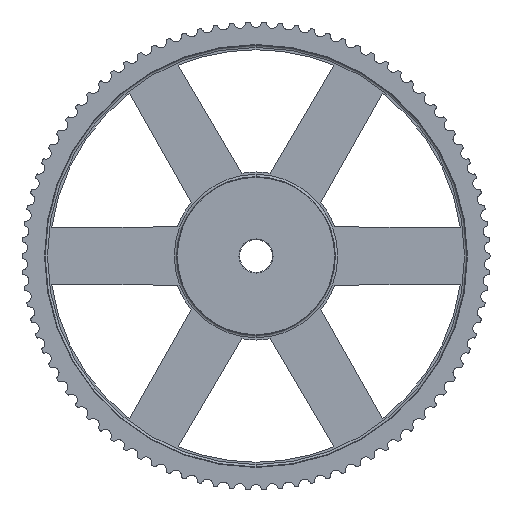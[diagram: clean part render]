
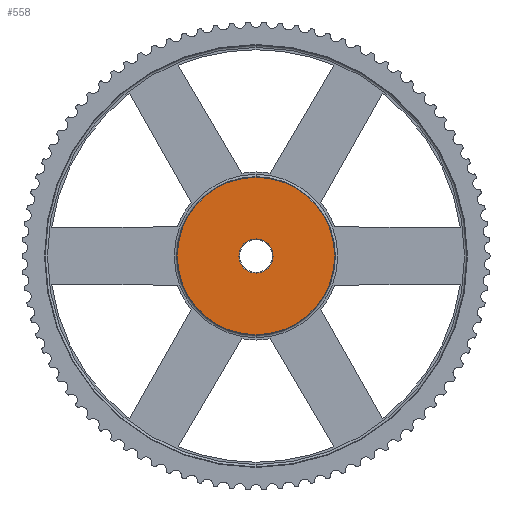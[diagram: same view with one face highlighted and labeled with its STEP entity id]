
A CAD part, left-side view. The second image highlights one B-rep face of the part: STEP entity #558.
In plain terms, the highlighted planar face has unit normal (-1, 0, 0).
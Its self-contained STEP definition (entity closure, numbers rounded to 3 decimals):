
#558=ADVANCED_FACE('',(#1601,#1602),#1603,.T.);
#1601=FACE_BOUND('',#2647,.T.);
#1602=FACE_OUTER_BOUND('',#2648,.T.);
#1603=PLANE('',#2649);
#2647=EDGE_LOOP('',(#7205,#7206));
#2648=EDGE_LOOP('',(#7207,#7208));
#2649=AXIS2_PLACEMENT_3D('',#7209,#7210,#7211);
#7205=ORIENTED_EDGE('',*,*,#7290,.T.);
#7206=ORIENTED_EDGE('',*,*,#7296,.T.);
#7207=ORIENTED_EDGE('',*,*,#8728,.T.);
#7208=ORIENTED_EDGE('',*,*,#7229,.T.);
#7209=CARTESIAN_POINT('',(0.0,0.0,0.0));
#7210=DIRECTION('',(-1.0,0.0,0.0));
#7211=DIRECTION('',(0.0,0.0,1.0));
#7229=EDGE_CURVE('',#8751,#8748,#8752,.T.);
#7290=EDGE_CURVE('',#8860,#8862,#8864,.T.);
#7296=EDGE_CURVE('',#8862,#8860,#8872,.T.);
#8728=EDGE_CURVE('',#8748,#8751,#11244,.T.);
#8748=VERTEX_POINT('',#11268);
#8751=VERTEX_POINT('',#11272);
#8752=CIRCLE('',#11273,67.0);
#8860=VERTEX_POINT('',#11402);
#8862=VERTEX_POINT('',#11405);
#8864=CIRCLE('',#11408,14.5);
#8872=CIRCLE('',#11418,14.5);
#11244=CIRCLE('',#14284,67.0);
#11268=CARTESIAN_POINT('',(0.0,67.0,0.0));
#11272=CARTESIAN_POINT('',(0.0,-67.0,0.));
#11273=AXIS2_PLACEMENT_3D('',#14307,#14308,#14309);
#11402=CARTESIAN_POINT('',(0.0,14.5,0.0));
#11405=CARTESIAN_POINT('',(0.0,-14.5,0.));
#11408=AXIS2_PLACEMENT_3D('',#14444,#14445,#14446);
#11418=AXIS2_PLACEMENT_3D('',#14458,#14459,#14460);
#14284=AXIS2_PLACEMENT_3D('',#17766,#17767,#17768);
#14307=CARTESIAN_POINT('',(0.0,0.0,0.));
#14308=DIRECTION('',(-1.0,0.0,0.0));
#14309=DIRECTION('',(0.0,1.0,0.0));
#14444=CARTESIAN_POINT('',(0.0,0.0,0.0));
#14445=DIRECTION('',(1.0,0.0,0.0));
#14446=DIRECTION('',(0.0,1.0,0.0));
#14458=CARTESIAN_POINT('',(0.0,0.0,0.0));
#14459=DIRECTION('',(1.0,0.0,0.0));
#14460=DIRECTION('',(0.0,1.0,0.0));
#17766=CARTESIAN_POINT('',(0.0,0.0,0.));
#17767=DIRECTION('',(-1.0,0.0,0.0));
#17768=DIRECTION('',(0.0,1.0,0.0));
